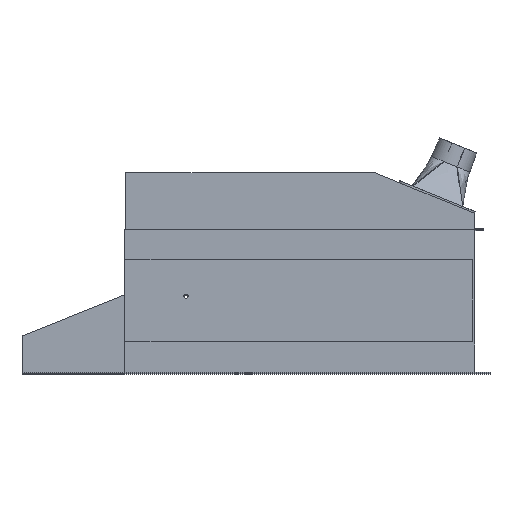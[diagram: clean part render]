
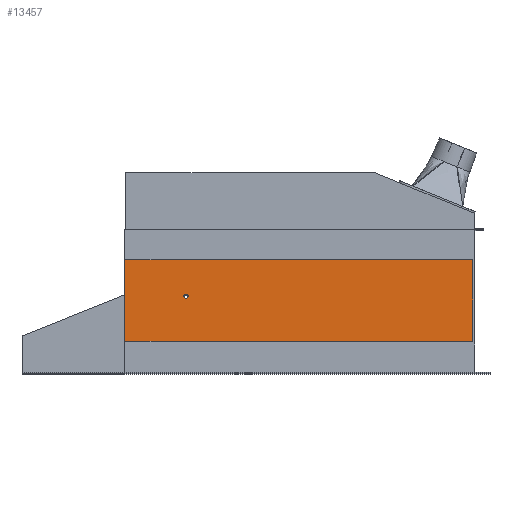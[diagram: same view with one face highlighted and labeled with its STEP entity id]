
A CAD part, top view. The second image highlights one B-rep face of the part: STEP entity #13457.
In plain terms, the highlighted planar face has unit normal (0, 0, 1).
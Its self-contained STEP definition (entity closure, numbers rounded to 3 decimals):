
#4199 = CIRCLE ( 'NONE', #23815, 5. ) ;
#4819 = EDGE_CURVE ( 'NONE', #48974, #61604, #4199, .T. ) ;
#5897 = CARTESIAN_POINT ( 'NONE',  ( -122.515, 102.105, 525. ) ) ;
#6523 = CARTESIAN_POINT ( 'NONE',  ( 22.485, 12.605, 525. ) ) ;
#12433 = FACE_OUTER_BOUND ( 'NONE', #44034, .T. ) ;
#12764 = LINE ( 'NONE', #45473, #62204 ) ;
#13100 = EDGE_LOOP ( 'NONE', ( #61956, #49097 ) ) ;
#13181 = CARTESIAN_POINT ( 'NONE',  ( 27.485, 12.605, 525. ) ) ;
#13457 = ADVANCED_FACE ( 'NONE', ( #25721, #12433 ), #16689, .T. ) ;
#14411 = CARTESIAN_POINT ( 'NONE',  ( 731.485, 102.105, 525. ) ) ;
#14517 = DIRECTION ( 'NONE',  ( 1., 0., 0. ) ) ;
#14659 = DIRECTION ( 'NONE',  ( 0., 0., 1. ) ) ;
#14741 = CARTESIAN_POINT ( 'NONE',  ( 27.485, 12.605, 525. ) ) ;
#14743 = VERTEX_POINT ( 'NONE', #30316 ) ;
#16671 = VECTOR ( 'NONE', #29416, 1000. ) ;
#16689 = PLANE ( 'NONE',  #44391 ) ;
#18218 = DIRECTION ( 'NONE',  ( 1., 0., 0. ) ) ;
#22106 = DIRECTION ( 'NONE',  ( 0., 0., 1. ) ) ;
#23815 = AXIS2_PLACEMENT_3D ( 'NONE', #14741, #14659, #14517 ) ;
#25721 = FACE_BOUND ( 'NONE', #13100, .T. ) ;
#25990 = ORIENTED_EDGE ( 'NONE', *, *, #28962, .T. ) ;
#28232 = EDGE_CURVE ( 'NONE', #14743, #37707, #12764, .T. ) ;
#28962 = EDGE_CURVE ( 'NONE', #38170, #14743, #32216, .T. ) ;
#28984 = LINE ( 'NONE', #59689, #53731 ) ;
#29416 = DIRECTION ( 'NONE',  ( 0., 1., 0. ) ) ;
#29487 = EDGE_CURVE ( 'NONE', #37707, #52486, #29845, .T. ) ;
#29542 = CARTESIAN_POINT ( 'NONE',  ( 32.485, 12.605, 525. ) ) ;
#29845 = LINE ( 'NONE', #63132, #16671 ) ;
#30316 = CARTESIAN_POINT ( 'NONE',  ( -122.515, -97.895, 525. ) ) ;
#31194 = EDGE_CURVE ( 'NONE', #52486, #38170, #28984, .T. ) ;
#31567 = EDGE_CURVE ( 'NONE', #61604, #48974, #59028, .T. ) ;
#32216 = LINE ( 'NONE', #55208, #45445 ) ;
#32241 = CARTESIAN_POINT ( 'NONE',  ( 731.485, -97.895, 525. ) ) ;
#35183 = DIRECTION ( 'NONE',  ( -1., 0., 0. ) ) ;
#35446 = DIRECTION ( 'NONE',  ( 1., 0., 0. ) ) ;
#35517 = ORIENTED_EDGE ( 'NONE', *, *, #28232, .T. ) ;
#36424 = ORIENTED_EDGE ( 'NONE', *, *, #31194, .T. ) ;
#37707 = VERTEX_POINT ( 'NONE', #32241 ) ;
#38170 = VERTEX_POINT ( 'NONE', #5897 ) ;
#41424 = CARTESIAN_POINT ( 'NONE',  ( 0., 0., 525. ) ) ;
#44034 = EDGE_LOOP ( 'NONE', ( #25990, #35517, #60146, #36424 ) ) ;
#44391 = AXIS2_PLACEMENT_3D ( 'NONE', #41424, #22106, #56626 ) ;
#45090 = AXIS2_PLACEMENT_3D ( 'NONE', #13181, #47954, #18218 ) ;
#45445 = VECTOR ( 'NONE', #55849, 1000. ) ;
#45473 = CARTESIAN_POINT ( 'NONE',  ( 731.485, -97.895, 525. ) ) ;
#47954 = DIRECTION ( 'NONE',  ( 0., 0., 1. ) ) ;
#48974 = VERTEX_POINT ( 'NONE', #6523 ) ;
#49097 = ORIENTED_EDGE ( 'NONE', *, *, #4819, .F. ) ;
#52486 = VERTEX_POINT ( 'NONE', #14411 ) ;
#53731 = VECTOR ( 'NONE', #35183, 1000. ) ;
#55208 = CARTESIAN_POINT ( 'NONE',  ( -122.515, -97.895, 525. ) ) ;
#55849 = DIRECTION ( 'NONE',  ( 0., -1., 0. ) ) ;
#56626 = DIRECTION ( 'NONE',  ( 1., 0., 0. ) ) ;
#59028 = CIRCLE ( 'NONE', #45090, 5. ) ;
#59689 = CARTESIAN_POINT ( 'NONE',  ( 731.485, 102.105, 525. ) ) ;
#60146 = ORIENTED_EDGE ( 'NONE', *, *, #29487, .T. ) ;
#61604 = VERTEX_POINT ( 'NONE', #29542 ) ;
#61956 = ORIENTED_EDGE ( 'NONE', *, *, #31567, .F. ) ;
#62204 = VECTOR ( 'NONE', #35446, 1000. ) ;
#63132 = CARTESIAN_POINT ( 'NONE',  ( 731.485, -97.895, 525. ) ) ;
